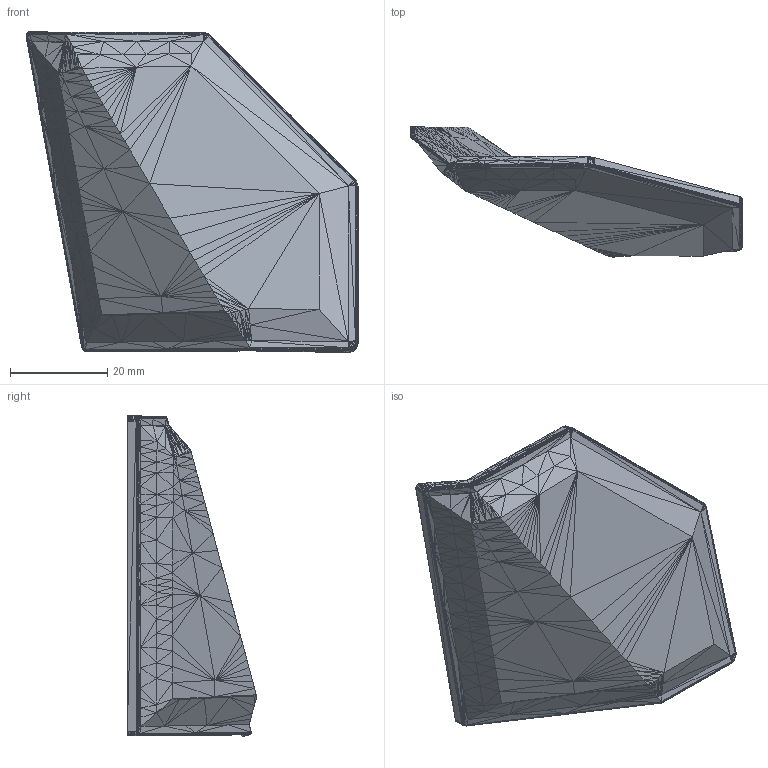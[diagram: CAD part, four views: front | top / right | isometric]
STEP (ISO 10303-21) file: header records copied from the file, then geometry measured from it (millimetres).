
FILE_DESCRIPTION((''),'2;1');
FILE_NAME('Palm Outer', '2025-03-27T07:35:13', (''), (''), 'ImageToStl.com STEP Converter','', '');
FILE_SCHEMA(('AUTOMOTIVE_DESIGN_CC2'));
Length unit declared in the file: metre
Products named in the file (1): product0
Bounding box: 68.27 x 26.69 x 66.04 mm (x, y, z)
Surface area: 8753.9 mm2 (no closed solid volume)
Topology: 0 solids, 6600 shells, 6600 faces, 19800 edges, 3302 vertices
Faces by surface type: plane 6600
Entity records: 158439 total; most frequent: DIRECTION 33002, ORIENTED_EDGE 19800, EDGE_CURVE 19800, LINE 19800, VECTOR 19800, AXIS2_PLACEMENT_3D 6601, STYLED_ITEM 6601, FACE_SURFACE 6600
